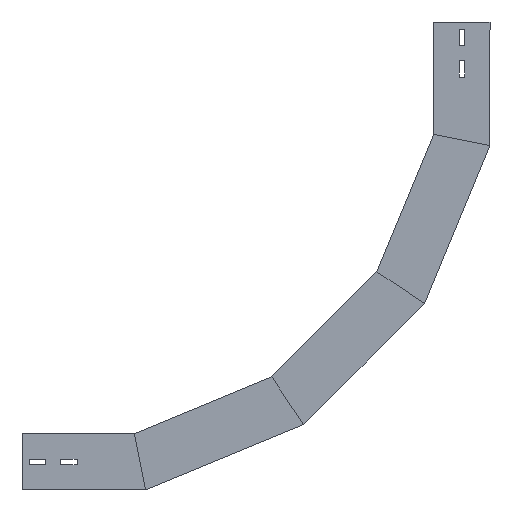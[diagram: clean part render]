
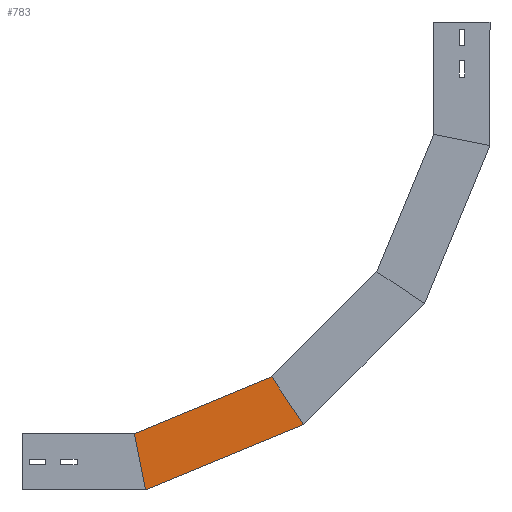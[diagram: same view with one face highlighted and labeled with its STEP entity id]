
A CAD part, left-side view. The second image highlights one B-rep face of the part: STEP entity #783.
In plain terms, the highlighted planar face has unit normal (-1, 0, 0) as drawn and (1, 0, 0) by its records, which use the part's own axes.
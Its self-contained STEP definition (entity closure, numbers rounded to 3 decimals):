
#2 = VERTEX_POINT ( 'NONE', #968 ) ;
#58 = LINE ( 'NONE', #608, #1523 ) ;
#87 = VECTOR ( 'NONE', #1860, 1000. ) ;
#147 = ORIENTED_EDGE ( 'NONE', *, *, #718, .T. ) ;
#197 = CARTESIAN_POINT ( 'NONE',  ( 0., 31.495, -158.335 ) ) ;
#309 = VERTEX_POINT ( 'NONE', #450 ) ;
#329 = LINE ( 'NONE', #197, #1804 ) ;
#341 = DIRECTION ( 'NONE',  ( 0., -0.831, -0.556 ) ) ;
#401 = DIRECTION ( 'NONE',  ( 0., 0., 1. ) ) ;
#411 = LINE ( 'NONE', #1562, #1436 ) ;
#417 = VERTEX_POINT ( 'NONE', #1122 ) ;
#450 = CARTESIAN_POINT ( 'NONE',  ( 0., 150.91, -332.945 ) ) ;
#529 = FACE_OUTER_BOUND ( 'NONE', #944, .T. ) ;
#544 = CARTESIAN_POINT ( 'NONE',  ( 0., 0., -164.6 ) ) ;
#608 = CARTESIAN_POINT ( 'NONE',  ( 0., 124.345, -350.696 ) ) ;
#633 = ORIENTED_EDGE ( 'NONE', *, *, #1375, .F. ) ;
#678 = AXIS2_PLACEMENT_3D ( 'NONE', #1274, #1854, #401 ) ;
#700 = DIRECTION ( 'NONE',  ( 0., 0.383, -0.924 ) ) ;
#718 = EDGE_CURVE ( 'NONE', #819, #2, #329, .T. ) ;
#760 = EDGE_CURVE ( 'NONE', #819, #309, #411, .T. ) ;
#783 = ADVANCED_FACE ( 'NONE', ( #529 ), #1420, .F. ) ;
#819 = VERTEX_POINT ( 'NONE', #1400 ) ;
#944 = EDGE_LOOP ( 'NONE', ( #1364, #147, #1457, #633 ) ) ;
#951 = DIRECTION ( 'NONE',  ( 0., -0.981, -0.195 ) ) ;
#968 = CARTESIAN_POINT ( 'NONE',  ( 0., 0., -164.6 ) ) ;
#1122 = CARTESIAN_POINT ( 'NONE',  ( 0., 87.328, -375.429 ) ) ;
#1273 = LINE ( 'NONE', #544, #87 ) ;
#1274 = CARTESIAN_POINT ( 'NONE',  ( 0., 0., -164.6 ) ) ;
#1364 = ORIENTED_EDGE ( 'NONE', *, *, #760, .F. ) ;
#1375 = EDGE_CURVE ( 'NONE', #309, #417, #58, .T. ) ;
#1400 = CARTESIAN_POINT ( 'NONE',  ( 0., 75., -149.682 ) ) ;
#1420 = PLANE ( 'NONE',  #678 ) ;
#1436 = VECTOR ( 'NONE', #700, 1000. ) ;
#1457 = ORIENTED_EDGE ( 'NONE', *, *, #1738, .T. ) ;
#1523 = VECTOR ( 'NONE', #341, 1000. ) ;
#1562 = CARTESIAN_POINT ( 'NONE',  ( 0., 69.291, -135.899 ) ) ;
#1738 = EDGE_CURVE ( 'NONE', #2, #417, #1273, .T. ) ;
#1804 = VECTOR ( 'NONE', #951, 1000. ) ;
#1854 = DIRECTION ( 'NONE',  ( -1., 0., 0. ) ) ;
#1860 = DIRECTION ( 'NONE',  ( 0., 0.383, -0.924 ) ) ;
